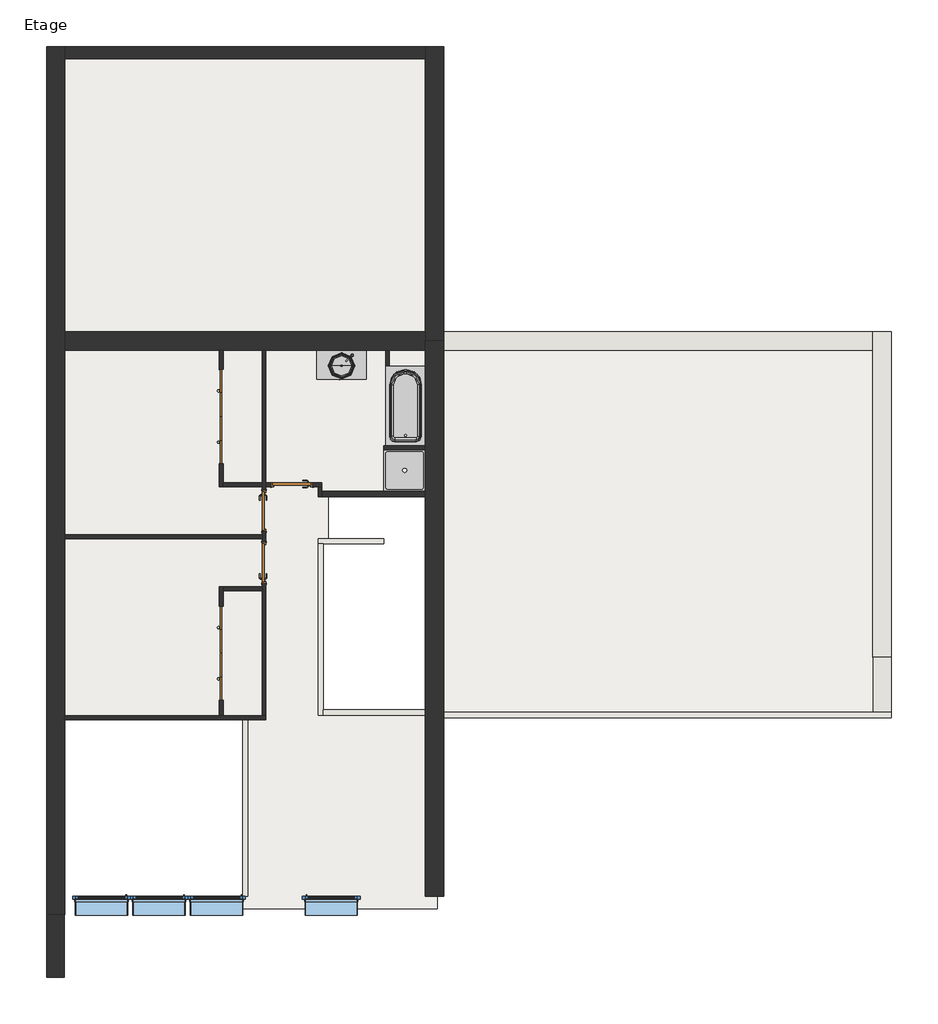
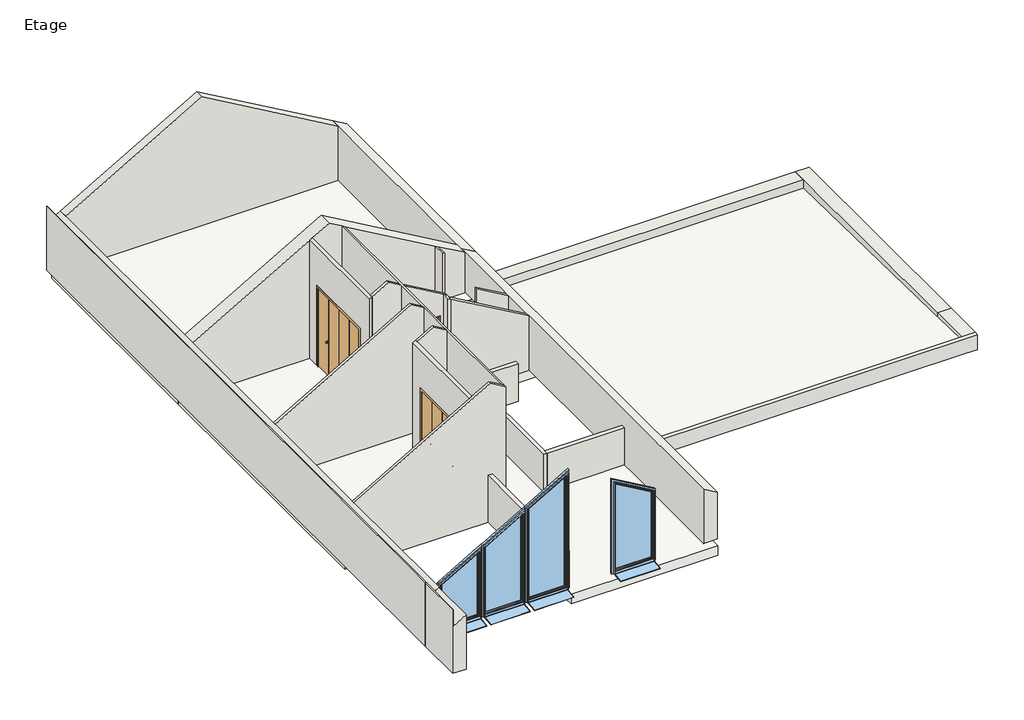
# One storey, incomplete: 25 walls, 5 doors, 4 windows, 3 flow terminals, 3 slabs, 1 furniture element, 1 roof.
"""IFC4 building model written with IfcOpenShell, lengths in millimetres."""

from ifc_helpers import new_model, si_unit, frame, origin, place, context, project, spatial, polyline, outline, extrude, faceted_brep, transform, mapped, element, save
from components import door_180cm_x_210cm_d4e2d69c, int_simple_pp_0_73m_x_2_04m_31faaed5, int_simple_pp_0_73m_x_2_04m_359deddd, flow_terminal_414a0167, flow_terminal_800_x_800mm_07a2eba6, baignoire_rectangulaire_mur_baignoire_rectangulaire_mur_f2afccf1, furniture_900mm_0b803dc7, window_1_vantail_angle_1_00m_x_1_83m_b6dea95d, window_1_vantail_angle_1_00m_x_2_45m_7bd88ca6, window_1_vantail_angle_1_00m_x_2_45m_d07fa77f, window_1_vantail_angle_1_00m_x_3_09m_aeb0207c

model = new_model("IFC4")

# Units and contexts
model_context = context("Model", 3, world=origin())
ifc_project = project(units=[si_unit("LENGTHUNIT", "METRE", prefix="MILLI")], contexts=[model_context])

# Site, building, storey
site = spatial("IfcSite", under=ifc_project)
building = spatial("IfcBuilding", under=site)
storey = spatial("IfcBuildingStorey", under=building, Name="Etage", Elevation=3000.0)

# Doors
placement = place(None, origin())
door_180cm_x_210cm_shape = door_180cm_x_210cm_d4e2d69c(model_context)
element("IfcDoor", 1, ObjectType="Placard double pliante : 180cm x 210cm", at=placement, inside=storey, context=model_context, shape_type="MappedRepresentation", body=[
    mapped(door_180cm_x_210cm_shape, transform((-4616.3224934, 785.4574199, 3000.0), x_axis=(0.0, -1.0, 0.0), y_axis=(1.0, 0.0, 0.0), z_axis=(0.0, 0.0, 1.0))),
])
element("IfcDoor", 2, ObjectType="Placard double pliante : 180cm x 210cm", at=placement, inside=storey, context=model_context, shape_type="MappedRepresentation", body=[
    mapped(door_180cm_x_210cm_shape, transform((-4616.3224934, -3737.5425801, 3000.0), x_axis=(0.0, -1.0, 0.0), y_axis=(1.0, 0.0, 0.0), z_axis=(0.0, 0.0, 1.0))),
])
int_simple_pp_0_73m_x_2_04m_shape = int_simple_pp_0_73m_x_2_04m_31faaed5(model_context)
element("IfcDoor", 3, ObjectType="Int. Simple : PP (0.73m x 2.04m)", at=placement, inside=storey, context=model_context, shape_type="MappedRepresentation", body=[
    mapped(int_simple_pp_0_73m_x_2_04m_shape, transform((-3801.3224934, -1975.0425801, 3000.0), x_axis=(0.0, 1.0, 0.0), y_axis=(-1.0, 0.0, 0.0), z_axis=(0.0, 0.0, 1.0))),
])
int_simple_pp_0_73m_x_2_04m_2_shape = int_simple_pp_0_73m_x_2_04m_359deddd(model_context)
element("IfcDoor", 4, ObjectType="Int. Simple : PP (0.73m x 2.04m)", at=placement, inside=storey, context=model_context, shape_type="MappedRepresentation", body=[
    mapped(int_simple_pp_0_73m_x_2_04m_2_shape, transform((-3801.3224934, -1053.0425801, 3000.0), x_axis=(0.0, -1.0, 0.0), y_axis=(1.0, 0.0, 0.0), z_axis=(0.0, 0.0, 1.0))),
])
element("IfcDoor", 5, ObjectType="Int. Simple : PP (0.73m x 2.04m)", at=placement, inside=storey, context=model_context, shape_type="MappedRepresentation", body=[
    mapped(int_simple_pp_0_73m_x_2_04m_2_shape, transform((-3304.3224934, -520.0425801, 3000.0), x_axis=(-1.0, 0.0, 0.0), y_axis=(0.0, -1.0, 0.0), z_axis=(0.0, 0.0, 1.0))),
])

# Flow terminals
flow_terminal_shape = flow_terminal_414a0167(model_context)
element("IfcFlowTerminal", 6, ObjectType="Lavabo moderne : Lavabo moderne", at=placement, inside=storey, context=model_context, shape_type="MappedRepresentation", body=[
    mapped(flow_terminal_shape, transform((-2344.1723599, 2054.9574199, 3740.0), x_axis=(1.0, 0.0, 0.0), y_axis=(0.0, 1.0, 0.0), z_axis=(0.0, 0.0, 1.0))),
])
flow_terminal_800_x_800mm_shape = flow_terminal_800_x_800mm_07a2eba6(model_context)
element("IfcFlowTerminal", 7, ObjectType="Receveur d'angle - Vidange axée : 800 x 800mm", at=placement, inside=storey, context=model_context, shape_type="MappedRepresentation", body=[
    mapped(flow_terminal_800_x_800mm_shape, transform((-1116.697342, -245.1038978, 3000.0), x_axis=(1.0, 0.0, 0.0), y_axis=(0.0, 1.0, 0.0), z_axis=(0.0, 0.0, 1.0))),
])
baignoire_rectangulaire_mur_baignoire_rectangulaire_mur_shape = baignoire_rectangulaire_mur_baignoire_rectangulaire_mur_f2afccf1(model_context)
element("IfcFlowTerminal", 8, ObjectType="Baignoire rectangulaire - Mur : Baignoire rectangulaire - Mur", at=placement, inside=storey, context=model_context, shape_type="MappedRepresentation", body=[
    mapped(baignoire_rectangulaire_mur_baignoire_rectangulaire_mur_shape, transform((-541.697342, 1337.4990709, 3000.0), x_axis=(0.0, 1.0, 0.0), y_axis=(-1.0, 0.0, 0.0), z_axis=(0.0, 0.0, 1.0))),
])

# Furniture
furniture_900mm_shape = furniture_900mm_0b803dc7(model_context)
element("IfcFurniture", 9, ObjectType="Meuble sous lavabo - Porte simple et 2 tiroirs : 900mm", at=placement, inside=storey, context=model_context, shape_type="MappedRepresentation", body=[
    mapped(furniture_900mm_shape, transform((-2414.2601983, 2054.9574199, 3000.0), x_axis=(1.0, 0.0, 0.0), y_axis=(0.0, 1.0, 0.0), z_axis=(0.0, 0.0, 1.0))),
])

# Roof
element("IfcRoof", 10, ObjectType="Toiture terrasse", at=placement, inside=storey, context=model_context, shape_type="SweptSolid", body=[
    extrude(outline(polyline([(-4867.1038978, 3320.0639936), (2054.9574199, 3181.6227672), (2054.9574199, 2861.5587736), (-4867.1038978, 3000.0), (-4867.1038978, 3320.0639936)])), frame((-366.697342, 0.0, 0.0), z_axis=(1.0, 0.0, 0.0), x_axis=(0.0, 1.0, 0.0)), (0.0, 0.0, 1.0), 8200.0),
])

# Slabs
element("IfcSlab", 11, ObjectType="Dalle en béton", at=placement, inside=storey, context=model_context, shape_type="Brep", body=[
    faceted_brep([(-486.697342, -8615.0425801, 2750.0), (-4198.697342, -8615.0425801, 2750.0), (-4198.697342, -8385.0425801, 2750.0), (-4198.697342, -5005.0425801, 2750.0), (-4198.697342, -4992.0425801, 2750.0), (-7606.697342, -4992.0425801, 2750.0), (-7836.697342, -4992.0425801, 2750.0), (-7836.697342, 2284.9574199, 2750.0), (-7606.697342, 2284.9574199, 2750.0), (-716.697342, 2284.9574199, 2750.0), (-486.697342, 2284.9574199, 2750.0), (-486.697342, 2229.9574199, 2750.0), (-486.697342, 757.8961022, 2750.0), (-486.697342, -732.1038978, 2750.0), (-716.697342, -732.1038978, 2750.0), (-2577.5004576, -732.1038978, 2750.0), (-2577.5004576, -745.1038978, 2750.0), (-2577.5004576, -1545.1038978, 2750.0), (-2577.5004576, -1632.1038978, 2750.0), (-2619.1256089, -1632.1038978, 2750.0), (-2682.3224934, -1632.1038978, 2750.0), (-2682.3224934, -1645.1038978, 2750.0), (-2682.3224934, -4831.0425801, 2750.0), (-2669.3224934, -4831.0425801, 2750.0), (-716.697342, -4831.0425801, 2750.0), (-486.697342, -4831.0425801, 2750.0), (-486.697342, -8615.0425801, 3000.0), (-486.697342, -4831.0425801, 3000.0), (-716.697342, -4831.0425801, 3000.0), (-2669.3224934, -4831.0425801, 3000.0), (-2682.3224934, -4831.0425801, 3000.0), (-2682.3224934, -1645.1038978, 3000.0), (-2682.3224934, -1632.1038978, 3000.0), (-2619.1256089, -1632.1038978, 3000.0), (-2577.5004576, -1632.1038978, 3000.0), (-2577.5004576, -1545.1038978, 3000.0), (-2577.5004576, -745.1038978, 3000.0), (-2577.5004576, -732.1038978, 3000.0), (-716.697342, -732.1038978, 3000.0), (-486.697342, -732.1038978, 3000.0), (-486.697342, 757.8961022, 3000.0), (-486.697342, 2229.9574199, 3000.0), (-486.697342, 2284.9574199, 3000.0), (-716.697342, 2284.9574199, 3000.0), (-7606.697342, 2284.9574199, 3000.0), (-7836.697342, 2284.9574199, 3000.0), (-7836.697342, -4992.0425801, 3000.0), (-7606.697342, -4992.0425801, 3000.0), (-4198.697342, -4992.0425801, 3000.0), (-4198.697342, -5005.0425801, 3000.0), (-4198.697342, -8385.0425801, 3000.0), (-4198.697342, -8615.0425801, 3000.0)], [[[0, 1, 2, 3, 4, 5, 6, 7, 8, 9, 10, 11, 12, 13, 14, 15, 16, 17, 18, 19, 20, 21, 22, 23, 24, 25]], [[26, 27, 28, 29, 30, 31, 32, 33, 34, 35, 36, 37, 38, 39, 40, 41, 42, 43, 44, 45, 46, 47, 48, 49, 50, 51]], [[1, 0, 26, 51]], [[7, 6, 46, 45]], [[10, 9, 8, 7, 45, 44, 43, 42]], [[0, 25, 27, 26]], [[4, 3, 2, 1, 51, 50, 49, 48]], [[6, 5, 4, 48, 47, 46]], [[13, 12, 11, 10, 42, 41, 40, 39]], [[15, 14, 13, 39, 38, 37]], [[18, 17, 16, 15, 37, 36, 35, 34]], [[20, 19, 18, 34, 33, 32]], [[22, 21, 20, 32, 31, 30]], [[25, 24, 23, 22, 30, 29, 28, 27]]]),
])
element("IfcSlab", 12, ObjectType="Dalle en béton", at=placement, inside=storey, context=model_context, shape_type="Brep", body=[
    faceted_brep([(-486.697342, 7834.9574199, 2750.0), (-486.697342, 2284.9574199, 2750.0), (-7836.697342, 2284.9574199, 2750.0), (-7836.697342, 7624.9574199, 2750.0), (-7836.697342, 7834.9574199, 2750.0), (-5616.5193778, 7834.9574199, 2750.0), (-486.697342, 7834.9574199, 3000.0), (-5616.5193778, 7834.9574199, 3000.0), (-7836.697342, 7834.9574199, 3000.0), (-7836.697342, 7624.9574199, 3000.0), (-7836.697342, 2284.9574199, 3000.0), (-486.697342, 2284.9574199, 3000.0)], [[[0, 1, 2, 3, 4, 5]], [[6, 7, 8, 9, 10, 11]], [[1, 0, 6, 11]], [[2, 1, 11, 10]], [[4, 3, 2, 10, 9, 8]], [[0, 5, 4, 8, 7, 6]]]),
])
element("IfcSlab", 13, ObjectType="Carrelage", at=placement, inside=storey, context=model_context, shape_type="Brep", body=[
    faceted_brep([(-716.697342, 2054.9574199, 3330.0), (-716.697342, 1751.8961022, 3330.0), (-1406.697342, 1751.8961022, 3330.0), (-1478.697342, 1751.8961022, 3330.0), (-1478.697342, 2054.9574199, 3330.0), (-1406.697342, 2054.9574199, 3330.0), (-716.697342, 2054.9574199, 3380.0), (-1406.697342, 2054.9574199, 3380.0), (-1478.697342, 2054.9574199, 3380.0), (-1478.697342, 1751.8961022, 3380.0), (-1406.697342, 1751.8961022, 3380.0), (-716.697342, 1751.8961022, 3380.0)], [[[0, 1, 2, 3, 4, 5]], [[6, 7, 8, 9, 10, 11]], [[1, 0, 6, 11]], [[3, 2, 1, 11, 10, 9]], [[4, 3, 9, 8]], [[0, 5, 4, 8, 7, 6]]]),
])

# Walls
element("IfcWall", 14, ObjectType="Ext. Bardage Métal + Isolant + Béton + Finition", at=placement, inside=storey, context=model_context, shape_type="Brep", body=[
    faceted_brep([(-7956.697342, 7854.9574199, 3000.0), (-7956.697342, 7624.9574199, 3000.0), (-7956.697342, -8735.0425801, 3000.0), (-7956.697342, -8735.0425801, 4700.0), (-7956.697342, 7854.9574199, 4700.0), (-7606.697342, 7854.9574199, 3000.0), (-7606.697342, 7854.9574199, 4452.0725942), (-7606.697342, 7624.9574199, 4452.0725942), (-7606.697342, 2404.9574199, 4452.0725942), (-7606.697342, 2054.9574199, 4452.0725942), (-7606.697342, -1478.0425801, 4452.0725942), (-7606.697342, -1550.0425801, 4452.0725942), (-7606.697342, -4933.0425801, 4452.0725942), (-7606.697342, -5005.0425801, 4452.0725942), (-7606.697342, -8385.0425801, 4452.0725942), (-7606.697342, -8735.0425801, 4452.0725942), (-7606.697342, -8735.0425801, 3000.0), (-7606.697342, -8385.0425801, 3000.0), (-7606.697342, -4992.0425801, 3000.0), (-7606.697342, -4933.0425801, 3000.0), (-7606.697342, -1550.0425801, 3000.0), (-7606.697342, -1478.0425801, 3000.0), (-7606.697342, 2054.9574199, 3000.0), (-7606.697342, 2284.9574199, 3000.0), (-7606.697342, 2404.9574199, 3000.0), (-7606.697342, 7624.9574199, 3000.0), (-7616.697342, -8735.0425801, 3000.0), (-7936.697342, 7854.9574199, 4700.0), (-7936.697342, 7854.9574199, 4261.5470054), (-7616.697342, -8735.0425801, 4446.2990915), (-7936.697342, -8735.0425801, 4261.5470054), (-7936.697342, -8735.0425801, 4700.0)], [[[0, 1, 2, 3, 4]], [[5, 6, 7, 8, 9, 10, 11, 12, 13, 14, 15, 16, 17, 18, 19, 20, 21, 22, 23, 24, 25]], [[2, 1, 0, 5, 25, 24, 23, 22, 21, 20, 19, 18, 17, 16, 26]], [[0, 4, 27, 28, 6, 5]], [[3, 2, 26, 16, 15, 29, 30, 31]], [[4, 3, 31, 27]], [[27, 31, 30, 28]], [[30, 29, 15, 14, 13, 12, 11, 10, 9, 8, 7, 6, 28]]]),
])
element("IfcWall", 15, ObjectType="Ext. Bardage Bois + Isolant + Béton + Finition", at=placement, inside=storey, context=model_context, shape_type="Brep", body=[
    faceted_brep([(-366.697342, -8385.0425801, 3000.0), (-366.697342, -4967.1038978, 3000.0), (-366.697342, -4867.1038978, 3000.0), (-366.697342, -3635.0425801, 3000.0), (-366.697342, 2054.9574199, 3000.0), (-366.697342, 2229.9574199, 3000.0), (-366.697342, 2229.9574199, 4250.0), (-366.697342, -8385.0425801, 4250.0), (-716.697342, -8385.0425801, 3000.0), (-716.697342, -8385.0425801, 4452.0725942), (-716.697342, -745.1038978, 4452.0725942), (-716.697342, -645.1038978, 4452.0725942), (-716.697342, 154.8961022, 4452.0725942), (-716.697342, 226.8961022, 4452.0725942), (-716.697342, 2054.9574199, 4452.0725942), (-716.697342, 2229.9574199, 4452.0725942), (-716.697342, 2229.9574199, 3000.0), (-716.697342, 2054.9574199, 3000.0), (-716.697342, 226.8961022, 3000.0), (-716.697342, 154.8961022, 3000.0), (-716.697342, -645.1038978, 3000.0), (-716.697342, -732.1038978, 3000.0), (-716.697342, -745.1038978, 3000.0), (-716.697342, -3635.0425801, 3000.0), (-716.697342, -4831.0425801, 3000.0), (-716.697342, -4918.0425801, 3000.0), (-486.697342, 2229.9574199, 3000.0)], [[[0, 1, 2, 3, 4, 5, 6, 7]], [[8, 9, 10, 11, 12, 13, 14, 15, 16, 17, 18, 19, 20, 21, 22, 23, 24, 25]], [[5, 4, 3, 2, 1, 0, 8, 25, 24, 23, 22, 21, 20, 19, 18, 17, 16, 26]], [[0, 7, 9, 8]], [[5, 26, 16, 15, 6]], [[7, 6, 15, 14, 13, 12, 11, 10, 9]]]),
])
element("IfcWall", 16, ObjectType="Ext. Bardage Bois + Isolant + Béton + Finition", at=placement, inside=storey, context=model_context, shape_type="Brep", body=[
    faceted_brep([(-716.697342, 2404.9574199, 4452.0725942), (-716.697342, 2404.9574199, 3000.0), (-7606.697342, 2404.9574199, 3000.0), (-7606.697342, 2404.9574199, 4452.0725942), (-4161.697342, 2404.9574199, 6441.0442716), (-716.697342, 2054.9574199, 3000.0), (-716.697342, 2054.9574199, 4452.0725942), (-1406.697342, 2054.9574199, 4850.44428), (-1478.697342, 2054.9574199, 4892.0134993), (-3765.3224934, 2054.9574199, 6212.197146), (-3837.3224934, 2054.9574199, 6253.7663654), (-4161.697342, 2054.9574199, 6441.0442716), (-4580.3224934, 2054.9574199, 6199.3509277), (-4652.3224934, 2054.9574199, 6157.7817084), (-7606.697342, 2054.9574199, 4452.0725942), (-7606.697342, 2054.9574199, 3000.0), (-4652.3224934, 2054.9574199, 3000.0), (-4580.3224934, 2054.9574199, 3000.0), (-3837.3224934, 2054.9574199, 3000.0), (-3765.3224934, 2054.9574199, 3000.0), (-1478.697342, 2054.9574199, 3000.0), (-1406.697342, 2054.9574199, 3000.0), (-716.697342, 2284.9574199, 3000.0), (-716.697342, 2229.9574199, 3000.0), (-716.697342, 2229.9574199, 4452.0725942)], [[[0, 1, 2, 3, 4]], [[5, 6, 7, 8, 9, 10, 11, 12, 13, 14, 15, 16, 17, 18, 19, 20, 21]], [[2, 1, 22, 23, 5, 21, 20, 19, 18, 17, 16, 15]], [[3, 2, 15, 14]], [[0, 24, 6, 5, 23, 22, 1]], [[0, 4, 11, 10, 9, 8, 7, 6, 24]], [[4, 3, 14, 13, 12, 11]]]),
])
element("IfcWall", 17, ObjectType="Int. Plâtre 70 mm", at=placement, inside=storey, context=model_context, shape_type="Brep", body=[
    faceted_brep([(-7606.697342, -5005.0425801, 4452.0725942), (-7606.697342, -5005.0425801, 2750.0), (-4211.697342, -5005.0425801, 2750.0), (-4198.697342, -5005.0425801, 2750.0), (-4198.697342, -5005.0425801, 3000.0), (-4111.697342, -5005.0425801, 3000.0), (-3765.3224934, -5005.0425801, 3000.0), (-3765.3224934, -5005.0425801, 6212.197146), (-4161.697342, -5005.0425801, 6441.0442716), (-7606.697342, -4933.0425801, 4452.0725942), (-4652.3224934, -4933.0425801, 6157.7817084), (-4580.3224934, -4933.0425801, 6199.3509277), (-4161.697342, -4933.0425801, 6441.0442716), (-3837.3224934, -4933.0425801, 6253.7663654), (-3765.3224934, -4933.0425801, 6212.197146), (-3765.3224934, -4933.0425801, 3000.0), (-3837.3224934, -4933.0425801, 3000.0), (-4580.3224934, -4933.0425801, 3000.0), (-4652.3224934, -4933.0425801, 3000.0), (-7606.697342, -4933.0425801, 3000.0), (-7606.697342, -4992.0425801, 2750.0), (-4198.697342, -4992.0425801, 2750.0), (-7606.697342, -4992.0425801, 3000.0), (-4198.697342, -4992.0425801, 3000.0)], [[[0, 1, 2, 3, 4, 5, 6, 7, 8]], [[9, 10, 11, 12, 13, 14, 15, 16, 17, 18, 19]], [[3, 2, 1, 20, 21]], [[14, 7, 6, 15]], [[0, 9, 19, 22, 20, 1]], [[4, 23, 22, 19, 18, 17, 16, 15, 6, 5]], [[21, 23, 4, 3]], [[23, 21, 20, 22]], [[9, 0, 8, 12, 11, 10]], [[7, 14, 13, 12, 8]]]),
])
element("IfcWall", 18, ObjectType="Int. Plâtre 70 mm", at=placement, inside=storey, context=model_context, shape_type="Brep", body=[
    faceted_brep([(-3765.3224934, -4933.0425801, 6212.197146), (-3765.3224934, -4933.0425801, 3000.0), (-3765.3224934, -2410.0425801, 3000.0), (-3765.3224934, -2410.0425801, 5075.0), (-3765.3224934, -1610.0425801, 5075.0), (-3765.3224934, -1610.0425801, 3000.0), (-3765.3224934, -1418.0425801, 3000.0), (-3765.3224934, -1418.0425801, 5075.0), (-3765.3224934, -618.0425801, 5075.0), (-3765.3224934, -618.0425801, 3000.0), (-3765.3224934, -556.0425801, 3000.0), (-3765.3224934, -484.0425801, 3000.0), (-3765.3224934, 2054.9574199, 3000.0), (-3765.3224934, 2054.9574199, 6212.197146), (-3765.3224934, -484.0425801, 6212.197146), (-3765.3224934, -556.0425801, 6212.197146), (-3837.3224934, -4933.0425801, 3000.0), (-3837.3224934, -4933.0425801, 6253.7663654), (-3837.3224934, -2542.0425801, 6253.7663654), (-3837.3224934, -2470.0425801, 6253.7663654), (-3837.3224934, -1550.0425801, 6253.7663654), (-3837.3224934, -1478.0425801, 6253.7663654), (-3837.3224934, -556.0425801, 6253.7663654), (-3837.3224934, -484.0425801, 6253.7663654), (-3837.3224934, 2054.9574199, 6253.7663654), (-3837.3224934, 2054.9574199, 3000.0), (-3837.3224934, -484.0425801, 3000.0), (-3837.3224934, -556.0425801, 3000.0), (-3837.3224934, -618.0425801, 3000.0), (-3837.3224934, -618.0425801, 5075.0), (-3837.3224934, -1418.0425801, 5075.0), (-3837.3224934, -1418.0425801, 3000.0), (-3837.3224934, -1478.0425801, 3000.0), (-3837.3224934, -1550.0425801, 3000.0), (-3837.3224934, -1610.0425801, 3000.0), (-3837.3224934, -1610.0425801, 5075.0), (-3837.3224934, -2410.0425801, 5075.0), (-3837.3224934, -2410.0425801, 3000.0), (-3837.3224934, -2470.0425801, 3000.0), (-3837.3224934, -2542.0425801, 3000.0)], [[[0, 1, 2, 3, 4, 5, 6, 7, 8, 9, 10, 11, 12, 13, 14, 15]], [[16, 17, 18, 19, 20, 21, 22, 23, 24, 25, 26, 27, 28, 29, 30, 31, 32, 33, 34, 35, 36, 37, 38, 39]], [[1, 16, 39, 38, 37, 2]], [[25, 12, 11, 10, 9, 28, 27, 26]], [[5, 34, 33, 32, 31, 6]], [[1, 0, 17, 16]], [[13, 12, 25, 24]], [[4, 35, 34, 5]], [[35, 4, 3, 36]], [[36, 3, 2, 37]], [[30, 7, 6, 31]], [[7, 30, 29, 8]], [[8, 29, 28, 9]], [[0, 15, 14, 13, 24, 23, 22, 21, 20, 19, 18, 17]]]),
])
element("IfcWall", 19, ObjectType="Int. Plâtre 70 mm", at=placement, inside=storey, context=model_context, shape_type="Brep", body=[
    faceted_brep([(-4652.3224934, 2054.9574199, 6157.7817084), (-4652.3224934, 2054.9574199, 3000.0), (-4652.3224934, 1685.4574199, 3000.0), (-4652.3224934, 1685.4574199, 5100.0), (-4652.3224934, -114.5425801, 5100.0), (-4652.3224934, -114.5425801, 3000.0), (-4652.3224934, -556.0425801, 3000.0), (-4652.3224934, -556.0425801, 6157.7817084), (-4580.3224934, 2054.9574199, 3000.0), (-4580.3224934, 2054.9574199, 6199.3509277), (-4580.3224934, -484.0425801, 6199.3509277), (-4580.3224934, -556.0425801, 6199.3509277), (-4580.3224934, -556.0425801, 3000.0), (-4580.3224934, -484.0425801, 3000.0), (-4580.3224934, -114.5425801, 3000.0), (-4580.3224934, -114.5425801, 5100.0), (-4580.3224934, 1685.4574199, 5100.0), (-4580.3224934, 1685.4574199, 3000.0)], [[[0, 1, 2, 3, 4, 5, 6, 7]], [[8, 9, 10, 11, 12, 13, 14, 15, 16, 17]], [[1, 8, 17, 2]], [[12, 6, 5, 14, 13]], [[1, 0, 9, 8]], [[7, 6, 12, 11]], [[4, 15, 14, 5]], [[15, 4, 3, 16]], [[16, 3, 2, 17]], [[0, 7, 11, 10, 9]]]),
])
element("IfcWall", 20, ObjectType="Int. Plâtre 70 mm", at=placement, inside=storey, context=model_context, shape_type="Brep", body=[
    faceted_brep([(-4580.3224934, -556.0425801, 6199.3509277), (-4580.3224934, -556.0425801, 3000.0), (-3837.3224934, -556.0425801, 3000.0), (-3837.3224934, -556.0425801, 6253.7663654), (-4161.697342, -556.0425801, 6441.0442716), (-4580.3224934, -484.0425801, 3000.0), (-4580.3224934, -484.0425801, 6199.3509277), (-4161.697342, -484.0425801, 6441.0442716), (-3837.3224934, -484.0425801, 6253.7663654), (-3837.3224934, -484.0425801, 3000.0)], [[[0, 1, 2, 3, 4]], [[5, 6, 7, 8, 9]], [[1, 5, 9, 2]], [[1, 0, 6, 5]], [[3, 2, 9, 8]], [[6, 0, 4, 7]], [[7, 4, 3, 8]]]),
    faceted_brep([(-2697.3224934, -556.0425801, 3000.0), (-2697.3224934, -556.0425801, 5595.5870585), (-2769.3224934, -556.0425801, 5637.1562779), (-3765.3224934, -556.0425801, 6212.197146), (-3765.3224934, -556.0425801, 3000.0), (-3669.3224934, -556.0425801, 3000.0), (-3669.3224934, -556.0425801, 5075.0), (-2869.3224934, -556.0425801, 5075.0), (-2869.3224934, -556.0425801, 3000.0), (-2769.3224934, -556.0425801, 3000.0), (-2697.3224934, -484.0425801, 5595.5870585), (-2697.3224934, -484.0425801, 3000.0), (-2869.3224934, -484.0425801, 3000.0), (-2869.3224934, -484.0425801, 5075.0), (-3669.3224934, -484.0425801, 5075.0), (-3669.3224934, -484.0425801, 3000.0), (-3765.3224934, -484.0425801, 3000.0), (-3765.3224934, -484.0425801, 6212.197146)], [[[0, 1, 2, 3, 4, 5, 6, 7, 8, 9]], [[10, 11, 12, 13, 14, 15, 16, 17]], [[11, 0, 9, 8, 12]], [[15, 5, 4, 16]], [[4, 3, 17, 16]], [[1, 0, 11, 10]], [[14, 6, 5, 15]], [[6, 14, 13, 7]], [[7, 13, 12, 8]], [[1, 10, 17, 3, 2]]]),
])
element("IfcWall", 21, ObjectType="Int. Plâtre 70 mm", at=placement, inside=storey, context=model_context, shape_type="Brep", body=[
    faceted_brep([(-2769.3224934, -556.0425801, 3000.0), (-2769.3224934, -745.1038978, 3000.0), (-2769.3224934, -745.1038978, 5637.1562779), (-2769.3224934, -556.0425801, 5637.1562779), (-2697.3224934, -556.0425801, 3000.0), (-2697.3224934, -556.0425801, 5595.5870585), (-2697.3224934, -645.1038978, 5595.5870585), (-2697.3224934, -745.1038978, 5595.5870585), (-2697.3224934, -745.1038978, 3000.0), (-2697.3224934, -645.1038978, 3000.0)], [[[0, 1, 2, 3]], [[4, 5, 6, 7, 8, 9]], [[1, 0, 4, 9, 8]], [[0, 3, 5, 4]], [[2, 1, 8, 7]], [[3, 2, 7, 6, 5]]]),
])
element("IfcWall", 22, ObjectType="Int. Plâtre 70 mm", at=placement, inside=storey, context=model_context, shape_type="SweptSolid", body=[
    extrude(outline(polyline([(3000.0, -716.697342), (4452.0725942, -716.697342), (4913.9528096, -1516.697342), (3000.0, -1516.697342), (3000.0, -716.697342)])), frame((0.0, 154.8961022, 0.0), z_axis=(0.0, 1.0, 0.0), x_axis=(0.0, 0.0, 1.0)), (0.0, 0.0, 1.0), 72.0),
])
element("IfcWall", 23, ObjectType="Int. Plâtre 70 mm", at=placement, inside=storey, context=model_context, shape_type="Brep", body=[
    faceted_brep([(-4580.3224934, -4933.0425801, 6199.3509277), (-4580.3224934, -4933.0425801, 3000.0), (-4580.3224934, -4637.5425801, 3000.0), (-4580.3224934, -4637.5425801, 5100.0), (-4580.3224934, -2837.5425801, 5100.0), (-4580.3224934, -2837.5425801, 3000.0), (-4580.3224934, -2542.0425801, 3000.0), (-4580.3224934, -2470.0425801, 3000.0), (-4580.3224934, -2470.0425801, 6199.3509277), (-4580.3224934, -2542.0425801, 6199.3509277), (-4652.3224934, -4933.0425801, 3000.0), (-4652.3224934, -4933.0425801, 6157.7817084), (-4652.3224934, -2470.0425801, 6157.7817084), (-4652.3224934, -2470.0425801, 3000.0), (-4652.3224934, -2837.5425801, 3000.0), (-4652.3224934, -2837.5425801, 5100.0), (-4652.3224934, -4637.5425801, 5100.0), (-4652.3224934, -4637.5425801, 3000.0)], [[[0, 1, 2, 3, 4, 5, 6, 7, 8, 9]], [[10, 11, 12, 13, 14, 15, 16, 17]], [[1, 10, 17, 2]], [[13, 7, 6, 5, 14]], [[1, 0, 11, 10]], [[8, 7, 13, 12]], [[16, 3, 2, 17]], [[3, 16, 15, 4]], [[4, 15, 14, 5]], [[0, 9, 8, 12, 11]]]),
])
element("IfcWall", 24, ObjectType="Int. Plâtre 70 mm", at=placement, inside=storey, context=model_context, shape_type="SweptSolid", body=[
    extrude(outline(polyline([(3000.0, -4580.3224934), (3000.0, -3837.3224934), (6253.7663654, -3837.3224934), (6441.0442716, -4161.697342), (6199.3509277, -4580.3224934), (3000.0, -4580.3224934)])), frame((0.0, -2542.0425801, 0.0), z_axis=(0.0, 1.0, 0.0), x_axis=(0.0, 0.0, 1.0)), (0.0, 0.0, 1.0), 72.0),
])
element("IfcWall", 25, ObjectType="Int. Plâtre 70 mm", at=placement, inside=storey, context=model_context, shape_type="SweptSolid", body=[
    extrude(outline(polyline([(3000.0, -3837.3224934), (6253.7663654, -3837.3224934), (6441.0442716, -4161.697342), (4452.0725942, -7606.697342), (3000.0, -7606.697342), (3000.0, -3837.3224934)])), frame((0.0, -1550.0425801, 0.0), z_axis=(0.0, 1.0, 0.0), x_axis=(0.0, 0.0, 1.0)), (0.0, 0.0, 1.0), 72.0),
])
element("IfcWall", 26, ObjectType="Int. Plâtre 100 mm", at=placement, inside=storey, context=model_context, shape_type="Brep", body=[
    faceted_brep([(-716.697342, -645.1038978, 3000.0), (-2697.3224934, -645.1038978, 3000.0), (-2697.3224934, -645.1038978, 5595.5870585), (-716.697342, -645.1038978, 4452.0725942), (-716.697342, -745.1038978, 3000.0), (-716.697342, -745.1038978, 4452.0725942), (-2697.3224934, -745.1038978, 5595.5870585), (-2697.3224934, -745.1038978, 3000.0), (-2577.5004576, -745.1038978, 3000.0), (-716.697342, -732.1038978, 3000.0)], [[[0, 1, 2, 3]], [[4, 5, 6, 7, 8]], [[1, 0, 9, 4, 8, 7]], [[0, 3, 5, 4, 9]], [[2, 1, 7, 6]], [[3, 2, 6, 5]]]),
])
element("IfcWall", 27, ObjectType="Int. Plâtre 100 mm", at=placement, inside=storey, context=model_context, shape_type="Brep", body=[
    faceted_brep([(-2769.3224934, -1645.1038978, 3000.0), (-2682.3224934, -1645.1038978, 3000.0), (-2619.1256089, -1645.1038978, 3000.0), (-1515.8753062, -1645.1038978, 3000.0), (-1515.8753062, -1645.1038978, 4000.0), (-2669.3224934, -1645.1038978, 4000.0), (-2769.3224934, -1645.1038978, 4000.0), (-2769.3224934, -1545.1038978, 3000.0), (-2769.3224934, -1545.1038978, 4000.0), (-1515.8753062, -1545.1038978, 4000.0), (-1515.8753062, -1545.1038978, 3000.0), (-2577.5004576, -1545.1038978, 3000.0)], [[[0, 1, 2, 3, 4, 5, 6]], [[7, 8, 9, 10, 11]], [[3, 2, 1, 0, 7, 11, 10]], [[4, 3, 10, 9]], [[6, 5, 4, 9, 8]], [[0, 6, 8, 7]]]),
])
element("IfcWall", 28, ObjectType="Int. Plâtre 100 mm", at=placement, inside=storey, context=model_context, shape_type="Brep", body=[
    faceted_brep([(-2669.3224934, -1645.1038978, 4000.0), (-2669.3224934, -4818.0425801, 4000.0), (-2669.3224934, -4918.0425801, 4000.0), (-2669.3224934, -4918.0425801, 3000.0), (-2669.3224934, -4831.0425801, 3000.0), (-2669.3224934, -4831.0425801, 2750.0), (-2669.3224934, -4818.0425801, 2750.0), (-2669.3224934, -1645.1038978, 2750.0), (-2769.3224934, -4918.0425801, 4000.0), (-2769.3224934, -1645.1038978, 4000.0), (-2769.3224934, -1645.1038978, 3000.0), (-2769.3224934, -4918.0425801, 3000.0), (-2682.3224934, -4831.0425801, 2750.0), (-2682.3224934, -1645.1038978, 2750.0), (-2682.3224934, -1645.1038978, 3000.0), (-2682.3224934, -4831.0425801, 3000.0)], [[[0, 1, 2, 3, 4, 5, 6, 7]], [[8, 9, 10, 11]], [[7, 6, 5, 12, 13]], [[2, 1, 0, 9, 8]], [[2, 8, 11, 3]], [[9, 0, 7, 13, 14, 10]], [[14, 15, 4, 3, 11, 10]], [[12, 15, 14, 13]], [[15, 12, 5, 4]]]),
])
element("IfcWall", 29, ObjectType="Int. Plâtre 100 mm", at=placement, inside=storey, context=model_context, shape_type="SweptSolid", body=[
    extrude(outline(polyline([(-4818.0425801, 4000.0), (-4818.0425801, 2750.0), (-4831.0425801, 2750.0), (-4831.0425801, 3000.0), (-4918.0425801, 3000.0), (-4918.0425801, 4000.0), (-4818.0425801, 4000.0)])), frame((-2669.3224934, 0.0, 0.0), z_axis=(1.0, 0.0, 0.0), x_axis=(0.0, 1.0, 0.0)), (0.0, 0.0, 1.0), 1952.6251514),
])
element("IfcWall", 30, ObjectType="Int. Plâtre 100 mm", at=placement, inside=storey, context=model_context, shape_type="SweptSolid", body=[
    extrude(outline(polyline([(4000.0, -4111.697342), (4000.0, -4211.697342), (2750.0, -4211.697342), (2750.0, -4198.697342), (3000.0, -4198.697342), (3000.0, -4111.697342), (4000.0, -4111.697342)])), frame((0.0, -8385.0425801, 0.0), z_axis=(0.0, 1.0, 0.0), x_axis=(0.0, 0.0, 1.0)), (0.0, 0.0, 1.0), 3380.0),
])
element("IfcWall", 31, ObjectType="Ext. Bardage Bois + Béton + Finition", at=placement, inside=storey, context=model_context, shape_type="Brep", body=[
    faceted_brep([(-7606.697342, 7624.9574199, 3000.0), (-716.697342, 7624.9574199, 3000.0), (-716.697342, 7624.9574199, 4452.0725942), (-4161.697342, 7624.9574199, 6441.0442716), (-7606.697342, 7624.9574199, 4452.0725942), (-7606.697342, 7854.9574199, 3000.0), (-7606.697342, 7854.9574199, 4452.0725942), (-4161.697342, 7854.9574199, 6441.0442716), (-716.697342, 7854.9574199, 4452.0725942), (-716.697342, 7854.9574199, 3000.0), (-5616.5193778, 7854.9574199, 3000.0)], [[[0, 1, 2, 3, 4]], [[5, 6, 7, 8, 9, 10]], [[1, 0, 5, 10, 9]], [[0, 4, 6, 5]], [[2, 1, 9, 8]], [[4, 3, 7, 6]], [[3, 2, 8, 7]]]),
])
element("IfcWall", 32, ObjectType="Ext. Bardage Bois + Isolant + Béton + Finition", at=placement, inside=storey, context=model_context, shape_type="Brep", body=[
    faceted_brep([(-366.697342, 2229.9574199, 2750.0), (-366.697342, 2404.9574199, 2750.0), (-366.697342, 7614.9574199, 2750.0), (-366.697342, 7854.9574199, 2750.0), (-366.697342, 7854.9574199, 4250.0), (-366.697342, 2229.9574199, 4250.0), (-366.697342, 2229.9574199, 3000.0), (-716.697342, 7854.9574199, 4452.0725942), (-716.697342, 7854.9574199, 3000.0), (-716.697342, 7854.9574199, 2750.0), (-716.697342, 7614.9574199, 2750.0), (-716.697342, 2404.9574199, 2750.0), (-716.697342, 2284.9574199, 2750.0), (-716.697342, 2284.9574199, 3000.0), (-716.697342, 2229.9574199, 3000.0), (-716.697342, 2229.9574199, 4452.0725942), (-716.697342, 2404.9574199, 4452.0725942), (-716.697342, 7624.9574199, 4452.0725942), (-486.697342, 2229.9574199, 2750.0), (-486.697342, 2284.9574199, 2750.0), (-486.697342, 2284.9574199, 3000.0), (-486.697342, 2229.9574199, 3000.0)], [[[0, 1, 2, 3, 4, 5, 6]], [[7, 8, 9, 10, 11, 12, 13, 14, 15, 16, 17]], [[3, 2, 1, 0, 18, 19, 12, 11, 10, 9]], [[4, 3, 9, 8, 7]], [[13, 20, 21, 14]], [[19, 20, 13, 12]], [[20, 19, 18, 21]], [[0, 6, 5, 15, 14, 21, 18]], [[5, 4, 7, 17, 16, 15]]]),
])
element("IfcWall", 33, ObjectType="Ext. Bardage Métal + Isolant + Béton + Bardage Bois", at=placement, inside=storey, context=model_context, shape_type="SweptSolid", body=[
    extrude(outline(polyline([(4700.0, -7956.697342), (3000.0, -7956.697342), (3000.0, -7616.697342), (4446.2990915, -7616.697342), (4261.5470054, -7936.697342), (4700.0, -7936.697342), (4700.0, -7956.697342)])), frame((0.0, -9932.1038978, 0.0), z_axis=(0.0, 1.0, 0.0), x_axis=(0.0, 0.0, 1.0)), (0.0, 0.0, 1.0), 1197.0613178),
])
element("IfcWall", 34, ObjectType="Int. Plâtre 70 mm", at=placement, inside=storey, context=model_context, shape_type="SweptSolid", body=[
    extrude(outline(polyline([(-1478.697342, 1751.8961022), (-1478.697342, 2054.9574199), (-1406.697342, 2054.9574199), (-1406.697342, 1751.8961022), (-1478.697342, 1751.8961022)])), frame((0.0, 0.0, 3000.0), z_axis=(0.0, 0.0, 1.0), x_axis=(1.0, 0.0, 0.0)), (0.0, 0.0, 1.0), 330.0),
    extrude(outline(polyline([(4850.44428, -1406.697342), (4892.0134993, -1478.697342), (3380.0, -1478.697342), (3380.0, -1406.697342), (4850.44428, -1406.697342)])), frame((0.0, 1751.8961022, 0.0), z_axis=(0.0, 1.0, 0.0), x_axis=(0.0, 0.0, 1.0)), (0.0, 0.0, 1.0), 303.0613178),
])
element("IfcWall", 35, ObjectType="Bardage Bois", at=placement, inside=storey, context=model_context, shape_type="Brep", body=[
    faceted_brep([(8183.302658, -4867.1038978, 3000.0), (7843.302658, -4867.1038978, 3000.0), (-366.697342, -4867.1038978, 3000.0), (-366.697342, -4867.1038978, 3400.0), (7843.302658, -4867.1038978, 3400.0), (8183.302658, -4867.1038978, 3400.0), (8183.302658, -4967.1038978, 3000.0), (8183.302658, -4967.1038978, 3400.0), (-366.697342, -4967.1038978, 3400.0), (-366.697342, -4967.1038978, 3000.0), (7843.302658, -4967.1038978, 3000.0)], [[[0, 1, 2, 3, 4, 5]], [[6, 7, 8, 9, 10]], [[2, 1, 0, 6, 10, 9]], [[5, 4, 3, 8, 7]], [[3, 2, 9, 8]], [[0, 5, 7, 6]]]),
])
element("IfcWall", 36, ObjectType="Ext. Bardage Bois + Isolant + Béton + Finition", at=placement, inside=storey, context=model_context, shape_type="Brep", body=[
    faceted_brep([(8183.302658, -3810.0425801, 3000.0), (8183.302658, -3635.0425801, 3000.0), (8183.302658, 2404.9574199, 3000.0), (8183.302658, 2404.9574199, 3400.0), (8183.302658, -3810.0425801, 3400.0), (7833.302658, -3810.0425801, 3000.0), (7833.302658, -3810.0425801, 3400.0), (7833.302658, 2054.9574199, 3400.0), (7833.302658, 2404.9574199, 3400.0), (7833.302658, 2404.9574199, 3000.0), (7833.302658, 2054.9574199, 3000.0), (7833.302658, -3635.0425801, 3000.0), (7843.302658, -3810.0425801, 3000.0), (7843.302658, -3810.0425801, 3400.0)], [[[0, 1, 2, 3, 4]], [[5, 6, 7, 8, 9, 10, 11]], [[2, 1, 0, 12, 5, 11, 10, 9]], [[4, 3, 8, 7, 6, 13]], [[0, 4, 13, 6, 5, 12]], [[3, 2, 9, 8]]]),
])
element("IfcWall", 37, ObjectType="Ext. Bardage Bois + Isolant + Béton + Finition", at=placement, inside=storey, context=model_context, shape_type="Brep", body=[
    faceted_brep([(7833.302658, 2404.9574199, 3000.0), (-366.697342, 2404.9574199, 3000.0), (-366.697342, 2404.9574199, 3400.0), (7833.302658, 2404.9574199, 3400.0), (7833.302658, 2054.9574199, 3000.0), (7833.302658, 2054.9574199, 3400.0), (-366.697342, 2054.9574199, 3400.0), (-366.697342, 2054.9574199, 3000.0), (-366.697342, 2229.9574199, 3000.0)], [[[0, 1, 2, 3]], [[4, 5, 6, 7]], [[1, 0, 4, 7, 8]], [[3, 2, 6, 5]], [[0, 3, 5, 4]], [[2, 1, 8, 7, 6]]]),
])
element("IfcWall", 38, ObjectType="Ext. Bardage Bois + Isolant + Béton + Bardage Métal", at=placement, inside=storey, context=model_context, shape_type="Brep", body=[
    faceted_brep([(7843.302658, -3810.0425801, 3000.0), (7843.302658, -3985.0425801, 3000.0), (7843.302658, -4867.1038978, 3000.0), (7843.302658, -4867.1038978, 3400.0), (7843.302658, -3810.0425801, 3400.0), (8183.302658, -3810.0425801, 3000.0), (8183.302658, -3810.0425801, 3400.0), (8183.302658, -4867.1038978, 3400.0), (8183.302658, -4867.1038978, 3000.0), (8183.302658, -3985.0425801, 3000.0)], [[[0, 1, 2, 3, 4]], [[5, 6, 7, 8, 9]], [[2, 1, 0, 5, 9, 8]], [[4, 3, 7, 6]], [[0, 4, 6, 5]], [[3, 2, 8, 7]]]),
])

# Windows
window_1_vantail_angle_1_00m_x_1_83m_shape = window_1_vantail_angle_1_00m_x_1_83m_b6dea95d(model_context)
element("IfcWindow", 39, ObjectType="1 Vantail - Angle : 1.00m x 1.83m", at=placement, inside=storey, context=model_context, shape_type="MappedRepresentation", body=[
    mapped(window_1_vantail_angle_1_00m_x_1_83m_shape, transform((-6906.697342, -8560.0425801, 3000.0), x_axis=(-1.0, 0.0, 0.0), y_axis=(0.0, -1.0, 0.0), z_axis=(0.0, 0.0, 1.0))),
])
window_1_vantail_angle_1_00m_x_2_45m_shape = window_1_vantail_angle_1_00m_x_2_45m_7bd88ca6(model_context)
element("IfcWindow", 40, ObjectType="1 Vantail - Angle : 1.00m x 2.45m", at=placement, inside=storey, context=model_context, shape_type="MappedRepresentation", body=[
    mapped(window_1_vantail_angle_1_00m_x_2_45m_shape, transform((-5806.697342, -8560.0425801, 3000.0), x_axis=(-1.0, 0.0, 0.0), y_axis=(0.0, -1.0, 0.0), z_axis=(0.0, 0.0, 1.0))),
])
window_1_vantail_angle_1_00m_x_2_45m_2_shape = window_1_vantail_angle_1_00m_x_2_45m_d07fa77f(model_context)
element("IfcWindow", 41, ObjectType="1 Vantail - Angle : 1.00m x 2.45m", at=placement, inside=storey, context=model_context, shape_type="MappedRepresentation", body=[
    mapped(window_1_vantail_angle_1_00m_x_2_45m_2_shape, transform((-2516.697342, -8560.0425801, 3000.0), x_axis=(1.0, 0.0, 0.0), y_axis=(0.0, 1.0, 0.0), z_axis=(0.0, 0.0, 1.0))),
])
window_1_vantail_angle_1_00m_x_3_09m_shape = window_1_vantail_angle_1_00m_x_3_09m_aeb0207c(model_context)
element("IfcWindow", 42, ObjectType="1 Vantail - Angle : 1.00m x 3.09m", at=placement, inside=storey, context=model_context, shape_type="MappedRepresentation", body=[
    mapped(window_1_vantail_angle_1_00m_x_3_09m_shape, transform((-4706.697342, -8560.0425801, 3000.0), x_axis=(-1.0, 0.0, 0.0), y_axis=(0.0, -1.0, 0.0), z_axis=(0.0, 0.0, 1.0))),
])

save(model, "model.ifc")
